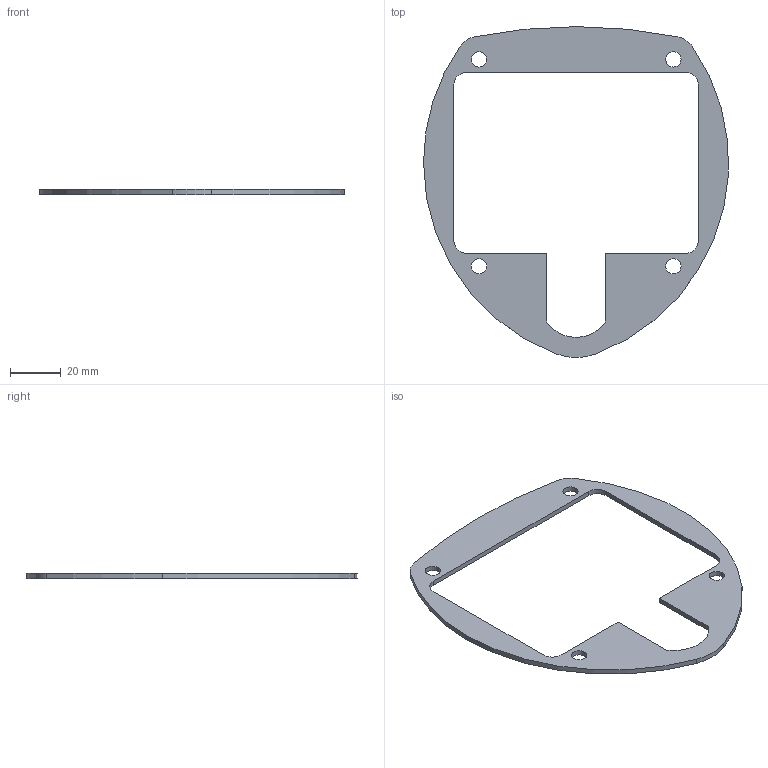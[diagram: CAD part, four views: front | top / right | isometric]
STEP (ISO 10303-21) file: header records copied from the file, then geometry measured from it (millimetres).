
FILE_DESCRIPTION (( 'STEP AP214' ), '1' );
FILE_NAME ('275020-31_Industrilas.step', '2022-04-21T01:26:08', ( '' ), ( '' ), 'SwSTEP 2.0', 'SolidWorks 2010', '' );
FILE_SCHEMA (( 'AUTOMOTIVE_DESIGN' ));
Length unit declared in the file: millimetre
Products named in the file (1): 275020-31_Industrilas
Bounding box: 119.72 x 129.81 x 2 mm (x, y, z)
Volume: 9679 mm3; surface area: 11400.3 mm2
Topology: 1 solids, 1 shells, 29 faces, 81 edges, 54 vertices
Faces by surface type: cylinder 20, plane 9
Entity records: 1009 total; most frequent: DIRECTION 181, CARTESIAN_POINT 165, ORIENTED_EDGE 162, EDGE_CURVE 81, AXIS2_PLACEMENT_3D 70, VERTEX_POINT 54, VECTOR 41, LINE 41
